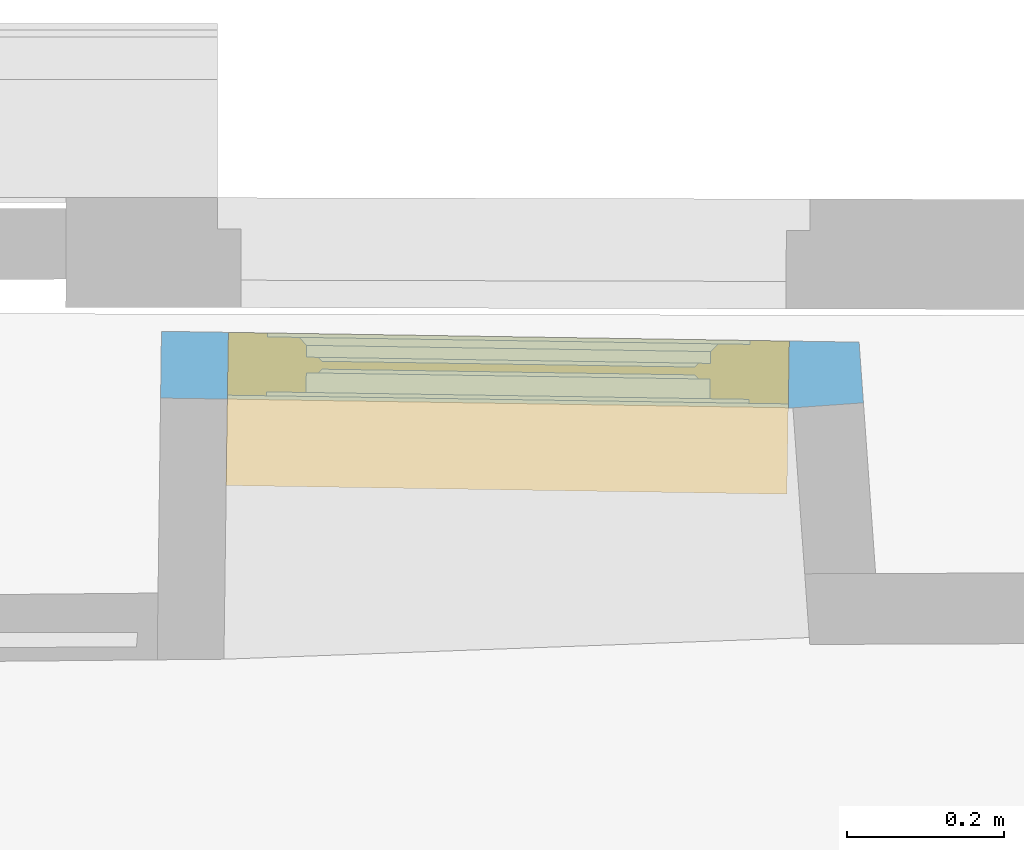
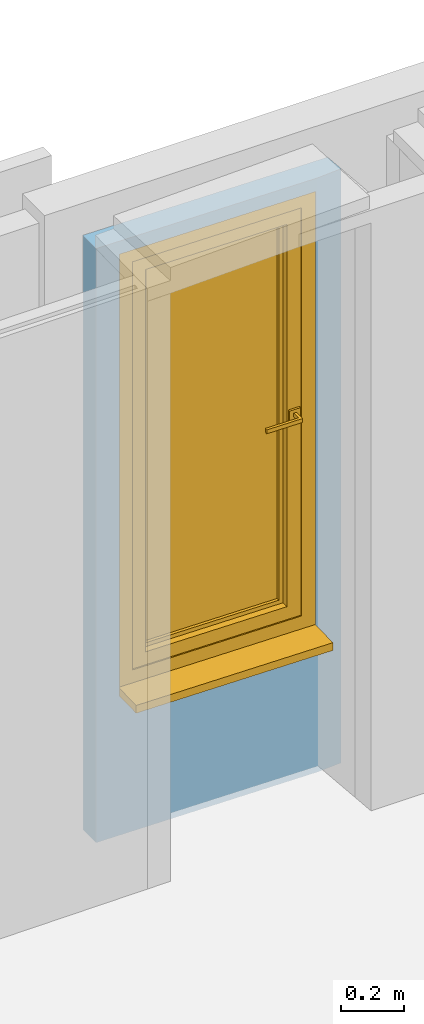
# One storey, part 60 of 72: 1 window, 1 opening, plus 1 element that does not belong to this part.
"""IFC2X3 building model written with IfcOpenShell, lengths in centimetres."""

from ifc_helpers import new_model, entity, si_unit, converted_unit, direction, frame, origin, origin_with_axes, place, context, subcontext, project, spatial, polyline, outline, extrude, faceted_brep, shape, material, material_list, layer, layer_set, layer_usage, type_object, element, fill, save


model = new_model("IFC2X3")

# Units and contexts
model_context = context("Model", 3, precision=0.0001, world=origin(), true_north=direction((0.225632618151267, 0.974212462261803, 0.0)))
body_context = subcontext(model_context, "Body", "Model", "MODEL_VIEW")
footprint_context = subcontext(model_context, "FootPrint", "Model", "MODEL_VIEW")
profile_context = subcontext(model_context, "Profile", "Model", "MODEL_VIEW")
ifc_project = project(units=[si_unit("LENGTHUNIT", "METRE", prefix="CENTI"), si_unit("AREAUNIT", "SQUARE_METRE", prefix="CENTI"), si_unit("VOLUMEUNIT", "CUBIC_METRE", prefix="CENTI"), converted_unit("PLANEANGLEUNIT", "DEGREE", entity("IfcRatioMeasure", 0.0174532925), si_unit("PLANEANGLEUNIT", "RADIAN"), dimensions=[0, 0, 0, 0, 0, 0, 0])], contexts=[model_context])

# Site, building, storey
site_placement = place(None, origin_with_axes())
site = spatial("IfcSite", under=ifc_project, at=site_placement, Name="Default Site", CompositionType="ELEMENT")
building_placement = place(site_placement, origin_with_axes())
building = spatial("IfcBuilding", under=site, at=building_placement, Name="Default Building", CompositionType="ELEMENT")
storey_placement = place(building_placement, frame((0.0, 0.0, 853.910374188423), z_axis=(0.0, 0.0, 1.0), x_axis=(1.0, 0.0, 0.0)))
storey = spatial("IfcBuildingStorey", under=building, at=storey_placement, Name="Niveau 2", CompositionType="ELEMENT", Elevation=853.910374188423)

# Wall, opening, window
ifc_material_1 = material(Name="<aucun>")
ifc_layer = layer(ifc_material_1, 8.5)
ifc_layer_set = layer_set([ifc_layer], Name="default")
ifc_layer_usage = layer_usage(ifc_layer_set, "AXIS2", "POSITIVE", -4.25)
wall_type = type_object("IfcWallType", Name="default 85", PredefinedType="NOTDEFINED", material=ifc_layer_set)
wall_placement = place(storey_placement, frame((-222.895406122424, 589.327121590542, 1.4210854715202e-12), z_axis=(0.0, 0.0, 1.0), x_axis=(-0.999879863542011, 0.0155002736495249, 0.0)))
wall = element("IfcWallStandardCase", 1, at=wall_placement, inside=storey, type_object=wall_type, material=ifc_layer_usage, Name="Enveloppe 166655", context=body_context, shape_type="SweptSolid", body=[
    extrude(outline(polyline([(80.0620513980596, 4.24999999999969), (-0.449333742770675, 4.25000000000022), (-9.4155357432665, 3.47075569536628), (-8.74453202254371, -4.24999999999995), (80.0830779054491, -4.25000000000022), (80.0620513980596, 4.24999999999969)])), frame((0.0, 0.0, 3.5527136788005e-13), z_axis=(0.0, 0.0, 1.0), x_axis=(1.0, 0.0, 0.0)), (0.0, 0.0, 1.0), 229.999999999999),
])
opening_placement = place(wall_placement, frame((0.136946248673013, 0.0, 56.9999999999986), z_axis=(0.0, 0.0, 1.0), x_axis=(1.0, -3.3879149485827e-15, 0.0)))
cartesian_point_1 = entity("IfcCartesianPoint", [0.0, 8.88178419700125e-14, 168.0])
cartesian_point_2 = entity("IfcCartesianPoint", [71.4250791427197, 4.25000000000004])
opening = element("IfcOpeningElement", 2, at=opening_placement, cuts=wall, Name="4294966438_11", ObjectType="Opening", shapes=[
    shape(body_context, "Body", "SweptSolid", [extrude(outline(polyline([(0.0, 168.0), (0.0, -2.99999999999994), (71.4250791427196, -2.99999999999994), (71.4250791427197, 168.0), (0.0, 168.0)])), frame((0.0, 14.25, 0.0), z_axis=(0.0, -1.0, 0.0), x_axis=(1.0, 0.0, 0.0)), (0.0, 0.0, 1.0), 28.5)]),
    shape(profile_context, "Profile", "GeometricCurveSet", [entity("IfcGeometricCurveSet", [entity("IfcPolyline", [cartesian_point_1, entity("IfcCartesianPoint", [0.0, 8.88178419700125e-14, 0.0]), entity("IfcCartesianPoint", [71.4250791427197, 8.88178419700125e-14, 0.0]), entity("IfcCartesianPoint", [71.4250791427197, 8.88178419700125e-14, 168.0]), cartesian_point_1])])]),
    shape(footprint_context, "FootPrint", "GeometricCurveSet", [entity("IfcGeometricCurveSet", [entity("IfcPolyline", [cartesian_point_2, entity("IfcCartesianPoint", [0.0, 4.25000000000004]), entity("IfcCartesianPoint", [4.44089209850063e-14, -4.24999999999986]), entity("IfcCartesianPoint", [71.4250791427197, -4.24999999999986]), cartesian_point_2])])]),
])
ifc_material_2 = material(Name="Transparent")
ifc_material_3 = material(Name="Jaune 255-255-0")
ifc_material_4 = material(Name="Brèche oniciata")
ifc_material_5 = material(Name="Aluminium satiné")
ifc_material_list = material_list([ifc_material_2, ifc_material_3, ifc_material_4, ifc_material_5])
window_style = type_object("IfcWindowStyle", Name="FN[R] 1VB[1V]", ConstructionType="NOTDEFINED", OperationType="SINGLE_PANEL", ParameterTakesPrecedence=True, Sizeable=False, material=ifc_material_list)
window_placement = place(opening_placement, frame((0.0, -4.24999999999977, 0.0), z_axis=(0.0, 0.0, 1.0), x_axis=(1.0, 0.0, 0.0)))
window = element("IfcWindow", 3, at=window_placement, inside=storey, type_object=window_style, material=ifc_material_list, Name="Fenêtre 166717", OverallHeight=168.0, OverallWidth=71.4250791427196, context=body_context, shape_type="Brep", body=[
    faceted_brep([(71.4250727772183, 8.49997721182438, 4.14609910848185e-05), (71.4250867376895, 19.4999771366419, 4.14609910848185e-05), (8.56125024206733e-06, 19.4999893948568, 4.14609910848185e-05), (-5.39922089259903e-06, 8.49998947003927, 4.14609910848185e-05), (-3.55332558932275e-06, 1.35687042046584e-05, 4.14609910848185e-05), (71.4250746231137, 1.31048931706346e-06, 4.14609910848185e-05), (71.4250746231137, 1.31048931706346e-06, -3.0000272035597), (-3.55332558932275e-06, 1.35687042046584e-05, -3.0000272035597), (-5.39922089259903e-06, 8.49998947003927, -3.0000272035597), (8.56125024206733e-06, 19.4999893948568, -3.0000272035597), (71.4250867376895, 19.4999771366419, -3.0000272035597), (71.4250727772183, 8.49997721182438, -3.0000272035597), (-3.55332559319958e-06, 1.33312024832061e-06, 4.14609910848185e-05), (-3.55332559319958e-06, 1.33312024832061e-06, -3.0000272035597), (-3.55063238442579e-06, 8.49998947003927, 4.14609910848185e-05), (-3.55063238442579e-06, 8.49998947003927, -3.0000272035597), (-5.39573555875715e-06, 19.4999893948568, 4.14609910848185e-05), (-5.39573555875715e-06, 19.4999893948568, -3.0000272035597), (71.4250867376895, 19.4999893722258, 4.14609910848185e-05), (71.4250867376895, 19.4999893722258, -3.0000272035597), (71.4250867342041, 8.49997721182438, 4.14609910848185e-05), (71.4250867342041, 8.49997721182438, -3.0000272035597), (71.4250727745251, 1.31048931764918e-06, 4.14609910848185e-05), (71.4250727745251, 1.31048931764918e-06, -3.0000272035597)], [[[0, 1, 2, 3, 4, 5]], [[6, 7, 8, 9, 10, 11]], [[5, 12, 13, 6]], [[4, 14, 15, 7]], [[3, 16, 17, 8]], [[2, 18, 19, 9]], [[1, 20, 21, 10]], [[0, 22, 23, 11]]]),
    faceted_brep([(66.4250785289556, 8.94069707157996e-08, 162.999999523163), (66.4250785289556, 7.99999991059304, 162.999999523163), (66.4250785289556, 7.99999991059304, 5.00000007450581), (66.4250785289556, 8.94069707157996e-08, 5.00000007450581), (71.4250797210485, 7.99999991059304, 167.999994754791), (71.4250797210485, 7.99999991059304, 1.77635683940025e-13), (71.4250797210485, 8.94069707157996e-08, 167.999994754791), (71.4250797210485, 8.94069707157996e-08, 1.77635683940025e-13), (5.00000061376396, 7.99999991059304, 5.00000007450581), (5.00000061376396, 8.94069707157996e-08, 5.00000007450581), (-5.78328940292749e-07, 7.99999991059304, 1.77635683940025e-13), (-5.78328940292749e-07, 8.94069707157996e-08, 1.77635683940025e-13), (5.00000061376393, 7.99999991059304, 162.999999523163), (5.00000061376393, 8.94069707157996e-08, 162.999999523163), (-5.78328940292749e-07, 7.99999991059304, 167.999994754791), (5.00000061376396, 7.99999991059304, 162.999999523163), (-5.78328951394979e-07, 8.94069707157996e-08, 167.999994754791), (-5.78328951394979e-07, 7.99999991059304, 167.999994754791), (5.00000061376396, 8.94069707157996e-08, 162.999999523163), (-5.78328940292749e-07, 8.94069707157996e-08, 167.999994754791)], [[[0, 1, 2, 3]], [[1, 4, 5, 2]], [[4, 6, 7, 5]], [[6, 0, 3, 7]], [[3, 2, 8, 9]], [[2, 5, 10, 8]], [[5, 7, 11, 10]], [[7, 3, 9, 11]], [[9, 8, 12, 13]], [[8, 10, 14, 15]], [[10, 11, 16, 17]], [[11, 9, 18, 19]], [[18, 15, 1, 0]], [[15, 14, 4, 1]], [[14, 19, 6, 4]], [[19, 18, 0, 6]]]),
    faceted_brep([(62.4250793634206, 0.499999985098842, 159.00000333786), (61.4250798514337, 1.49999949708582, 158.000004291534), (61.4250798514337, 1.49999949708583, 10.0000001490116), (62.4250793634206, 0.49999998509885, 9.00000035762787), (61.425080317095, 1.4999999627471, 158.000004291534), (61.425080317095, 7.50000001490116, 158.000004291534), (61.425080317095, 7.50000001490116, 10.0000001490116), (61.425080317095, 1.4999999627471, 10.0000001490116), (66.4250785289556, 7.50000001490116, 162.999999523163), (66.4250785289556, 7.50000001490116, 5.00000007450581), (66.4250785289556, 0.499999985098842, 162.999999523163), (66.4250785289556, 0.499999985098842, 5.00000007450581), (62.4250793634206, 0.499999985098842, 9.00000035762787), (61.425080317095, 1.49999986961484, 10.0000002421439), (9.99999882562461, 1.49999986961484, 10.0000002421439), (8.99999977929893, 0.499999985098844, 9.00000035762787), (9.99999882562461, 7.50000001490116, 10.0000001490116), (9.99999882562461, 1.4999999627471, 10.0000001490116), (5.00000061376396, 7.50000001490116, 5.00000007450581), (5.00000061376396, 0.499999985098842, 5.00000007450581), (8.99999977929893, 0.499999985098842, 9.00000035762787), (9.9999992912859, 1.49999949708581, 10.0000001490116), (9.9999992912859, 1.49999949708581, 158.000004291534), (8.99999977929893, 0.499999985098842, 159.00000333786), (9.99999882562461, 7.50000001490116, 158.000004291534), (9.99999882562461, 1.4999999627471, 158.000004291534), (5.00000061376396, 7.50000001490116, 162.999999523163), (5.00000061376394, 0.499999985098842, 162.999999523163), (5.00000061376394, 7.50000001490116, 162.999999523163), (5.00000061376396, 0.499999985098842, 162.999999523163), (9.99999882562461, 1.49999949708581, 158.000003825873), (61.425080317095, 1.4999994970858, 158.000003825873), (62.4250793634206, 0.499999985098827, 159.00000333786)], [[[0, 1, 2, 3]], [[4, 5, 6, 7]], [[5, 8, 9, 6]], [[8, 10, 11, 9]], [[10, 0, 12, 11]], [[12, 13, 14, 15]], [[7, 6, 16, 17]], [[6, 9, 18, 16]], [[9, 11, 19, 18]], [[11, 12, 20, 19]], [[20, 21, 22, 23]], [[17, 16, 24, 25]], [[16, 18, 26, 24]], [[18, 19, 27, 28]], [[19, 20, 23, 29]], [[23, 30, 31, 32]], [[25, 24, 5, 4]], [[24, 26, 8, 5]], [[26, 29, 10, 8]], [[29, 23, 0, 10]]]),
    faceted_brep([(5.5000001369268, 7.50000001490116, 81.9999992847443), (9.49999930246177, 7.50000001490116, 81.9999992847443), (9.49999930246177, 7.50000001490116, 86.0000014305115), (5.5000001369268, 7.50000001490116, 86.0000014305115), (5.5000001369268, 8.30000014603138, 86.0000014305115), (9.49999930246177, 8.30000014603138, 86.0000014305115), (9.49999930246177, 8.30000014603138, 81.9999992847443), (5.5000001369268, 8.30000014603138, 81.9999992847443)], [[[0, 1, 2, 3]], [[4, 5, 6, 7]], [[3, 2, 5, 4]], [[2, 1, 6, 5]], [[1, 0, 7, 6]], [[0, 3, 4, 7]]]),
    faceted_brep([(6.99999870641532, 8.30000014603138, 83.2499980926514), (8.00000073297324, 8.30000014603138, 83.2499980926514), (8.00000073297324, 8.30000014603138, 84.7500026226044), (6.99999870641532, 8.30000014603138, 84.7500026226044), (6.99999870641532, 12.2999996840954, 84.7500026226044), (7.99999961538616, 11.2999987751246, 84.7500026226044), (7.99999961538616, 11.2999987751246, 83.2499980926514), (6.99999870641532, 12.2999996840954, 83.2499980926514), (8.00000073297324, 11.2999998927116, 84.7500026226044), (8.00000073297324, 11.2999998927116, 83.2499980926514)], [[[0, 1, 2, 3]], [[4, 5, 6, 7]], [[3, 2, 8, 4]], [[2, 1, 9, 8]], [[1, 0, 7, 9]], [[0, 3, 4, 7]]]),
    faceted_brep([(6.99999870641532, 12.2999996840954, 83.2499980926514), (7.99999961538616, 11.2999987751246, 83.2499980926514), (7.99999961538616, 11.2999987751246, 84.7500026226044), (6.99999870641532, 12.2999996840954, 84.7500026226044), (19.9999997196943, 12.2999996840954, 84.7500026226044), (19.9999997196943, 11.2999998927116, 84.7500026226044), (19.9999997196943, 11.2999998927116, 83.2499980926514), (19.9999997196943, 12.2999996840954, 83.2499980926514), (8.00000073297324, 11.2999998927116, 84.7500026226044), (8.00000073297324, 11.2999998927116, 83.2499980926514)], [[[0, 1, 2, 3]], [[4, 5, 6, 7]], [[3, 8, 5, 4]], [[8, 9, 6, 5]], [[9, 0, 7, 6]], [[0, 3, 4, 7]]]),
    faceted_brep([(59.9250787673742, 3.00000002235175, 156.500005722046), (59.4250790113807, 3.49999977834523, 155.999994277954), (59.4250790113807, 3.49999977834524, 11.9999997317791), (59.9250787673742, 3.00000002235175, 11.5000002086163), (59.4250792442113, 3.50000001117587, 155.999994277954), (59.4250792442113, 4.49999998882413, 155.999994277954), (59.4250792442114, 4.49999998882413, 11.9999997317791), (59.4250792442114, 3.50000001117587, 11.9999997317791), (59.9250790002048, 4.99999974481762, 156.500005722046), (59.9250790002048, 4.99999974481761, 11.5000002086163), (59.4250792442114, 4.49999998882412, 11.9999997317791), (59.9250787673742, 4.99999997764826, 156.500005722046), (61.425080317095, 4.99999997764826, 158.000004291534), (61.425080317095, 4.99999997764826, 10.0000001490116), (59.9250787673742, 4.99999997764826, 11.5000002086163), (61.425080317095, 3.00000002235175, 158.000004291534), (61.425080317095, 3.00000002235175, 10.0000001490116), (59.4250792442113, 3.49999977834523, 11.9999999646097), (11.9999998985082, 3.49999977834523, 11.9999999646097), (11.5000003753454, 3.00000002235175, 11.5000002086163), (59.4250792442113, 3.50000001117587, 11.9999997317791), (59.4250792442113, 4.49999998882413, 11.9999997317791), (11.9999998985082, 4.49999998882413, 11.9999997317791), (11.9999998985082, 3.50000001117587, 11.9999997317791), (59.9250787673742, 4.99999974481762, 11.4999999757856), (11.5000003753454, 4.99999974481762, 11.4999999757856), (9.99999882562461, 4.99999997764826, 10.0000001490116), (11.5000003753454, 4.99999997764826, 11.5000002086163), (9.99999882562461, 3.00000002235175, 10.0000001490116), (12.0000001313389, 3.49999977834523, 11.9999997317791), (12.0000001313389, 3.49999977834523, 155.999994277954), (11.5000003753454, 3.00000002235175, 156.500005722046), (11.9999998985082, 4.49999998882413, 155.999994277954), (11.9999998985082, 3.50000001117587, 155.999994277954), (11.5000001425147, 4.99999974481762, 11.5000002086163), (11.5000001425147, 4.99999974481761, 156.500005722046), (11.9999998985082, 4.49999998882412, 155.999994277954), (9.99999882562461, 4.99999997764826, 158.000004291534), (11.5000003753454, 4.99999997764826, 156.500005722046), (9.9999988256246, 3.00000002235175, 158.000004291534), (9.9999988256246, 4.99999997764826, 158.000004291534), (9.99999882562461, 3.00000002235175, 158.000004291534), (11.9999998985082, 3.5000057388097, 156.000000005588), (59.4250792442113, 3.5000057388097, 156.000000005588), (11.5000003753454, 5.00000570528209, 156.499999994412), (59.9250787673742, 5.00000570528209, 156.499999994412)], [[[0, 1, 2, 3]], [[4, 5, 6, 7]], [[5, 8, 9, 10]], [[11, 12, 13, 14]], [[12, 15, 16, 13]], [[15, 0, 3, 16]], [[3, 17, 18, 19]], [[20, 21, 22, 23]], [[21, 24, 25, 22]], [[14, 13, 26, 27]], [[13, 16, 28, 26]], [[16, 3, 19, 28]], [[19, 29, 30, 31]], [[23, 22, 32, 33]], [[22, 34, 35, 36]], [[27, 26, 37, 38]], [[26, 28, 39, 40]], [[28, 19, 31, 41]], [[31, 42, 43, 0]], [[33, 32, 5, 4]], [[32, 44, 45, 5]], [[38, 37, 12, 11]], [[37, 41, 15, 12]], [[41, 31, 0, 15]]]),
    faceted_brep([(11.9999998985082, 3.50000001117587, 155.999994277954), (11.9999998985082, 3.50000001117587, 11.9999997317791), (59.4250792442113, 3.50000001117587, 11.9999997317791), (59.4250792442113, 3.50000001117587, 155.999994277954), (59.4250792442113, 4.49999998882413, 155.999994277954), (59.4250792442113, 4.49999998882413, 11.9999997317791), (11.9999998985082, 4.49999998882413, 11.9999997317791), (11.9999998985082, 4.49999998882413, 155.999994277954), (59.4250792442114, 3.50000001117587, 11.9999997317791), (59.4250792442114, 4.49999998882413, 11.9999997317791)], [[[0, 1, 2, 3]], [[4, 5, 6, 7]], [[3, 8, 9, 4]], [[2, 1, 6, 5]], [[1, 0, 7, 6]], [[0, 3, 4, 7]]]),
])
fill(opening, window)

save(model, "model.ifc")
